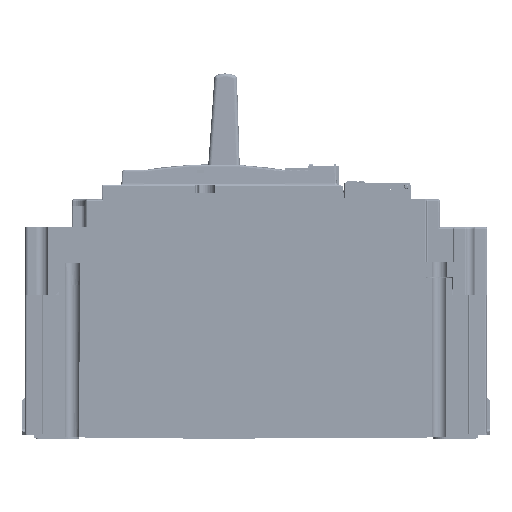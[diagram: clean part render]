
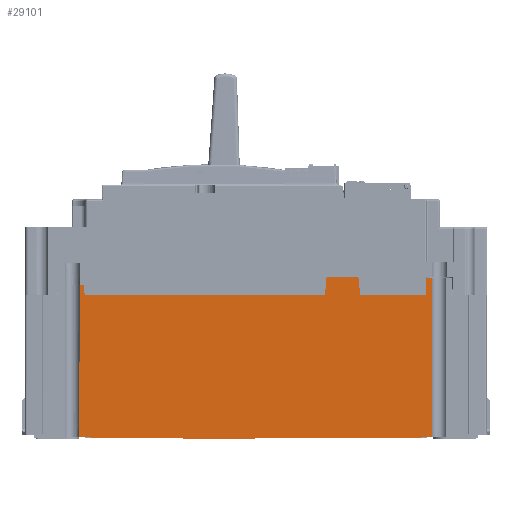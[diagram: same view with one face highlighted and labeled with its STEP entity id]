
A CAD part, left-side view. The second image highlights one B-rep face of the part: STEP entity #29101.
In plain terms, the highlighted planar face has unit normal (-1, 0, 0).
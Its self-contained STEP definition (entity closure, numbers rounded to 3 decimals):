
#29101=ADVANCED_FACE('',(#53751),#53752,.T.);
#53751=FACE_OUTER_BOUND('',#88213,.T.);
#53752=PLANE('',#88214);
#88213=EDGE_LOOP('',(#121504,#121505,#121506,#121507,#121508,#121509,#121510,#121511,#121512,#121513,#121514,#121515,#121516,#121517,#121518,#121519,#121520,#121521,#121522,#121523,#121524,#121525,#121526,#121527,#121528,#121529,#121530));
#88214=AXIS2_PLACEMENT_3D('',#121531,#121532,#121533);
#121504=ORIENTED_EDGE('',*,*,#172597,.F.);
#121505=ORIENTED_EDGE('',*,*,#172598,.T.);
#121506=ORIENTED_EDGE('',*,*,#172599,.F.);
#121507=ORIENTED_EDGE('',*,*,#172432,.F.);
#121508=ORIENTED_EDGE('',*,*,#172596,.T.);
#121509=ORIENTED_EDGE('',*,*,#172600,.F.);
#121510=ORIENTED_EDGE('',*,*,#172601,.F.);
#121511=ORIENTED_EDGE('',*,*,#172602,.F.);
#121512=ORIENTED_EDGE('',*,*,#172603,.F.);
#121513=ORIENTED_EDGE('',*,*,#172604,.T.);
#121514=ORIENTED_EDGE('',*,*,#172059,.T.);
#121515=ORIENTED_EDGE('',*,*,#172605,.T.);
#121516=ORIENTED_EDGE('',*,*,#172055,.T.);
#121517=ORIENTED_EDGE('',*,*,#172606,.T.);
#121518=ORIENTED_EDGE('',*,*,#172607,.T.);
#121519=ORIENTED_EDGE('',*,*,#172608,.T.);
#121520=ORIENTED_EDGE('',*,*,#172609,.F.);
#121521=ORIENTED_EDGE('',*,*,#172610,.F.);
#121522=ORIENTED_EDGE('',*,*,#172611,.F.);
#121523=ORIENTED_EDGE('',*,*,#172612,.F.);
#121524=ORIENTED_EDGE('',*,*,#172613,.F.);
#121525=ORIENTED_EDGE('',*,*,#172614,.T.);
#121526=ORIENTED_EDGE('',*,*,#172615,.F.);
#121527=ORIENTED_EDGE('',*,*,#172616,.T.);
#121528=ORIENTED_EDGE('',*,*,#172617,.T.);
#121529=ORIENTED_EDGE('',*,*,#172154,.T.);
#121530=ORIENTED_EDGE('',*,*,#172618,.T.);
#121531=CARTESIAN_POINT('',(-52.35,16.0,0.0));
#121532=DIRECTION('',(-1.0,0.0,0.0));
#121533=DIRECTION('',(0.0,0.0,1.0));
#172055=EDGE_CURVE('',#209463,#209461,#209464,.T.);
#172059=EDGE_CURVE('',#209471,#209469,#209472,.T.);
#172154=EDGE_CURVE('',#209649,#209647,#209650,.T.);
#172432=EDGE_CURVE('',#210146,#210149,#210150,.T.);
#172596=EDGE_CURVE('',#210146,#210439,#210441,.T.);
#172597=EDGE_CURVE('',#210442,#210443,#210444,.T.);
#172598=EDGE_CURVE('',#210442,#210445,#210446,.T.);
#172599=EDGE_CURVE('',#210149,#210445,#210447,.T.);
#172600=EDGE_CURVE('',#210448,#210439,#210449,.T.);
#172601=EDGE_CURVE('',#210450,#210448,#210451,.T.);
#172602=EDGE_CURVE('',#210452,#210450,#210453,.T.);
#172603=EDGE_CURVE('',#210454,#210452,#210455,.T.);
#172604=EDGE_CURVE('',#210454,#209471,#210456,.T.);
#172605=EDGE_CURVE('',#209469,#209463,#210457,.T.);
#172606=EDGE_CURVE('',#209461,#210458,#210459,.T.);
#172607=EDGE_CURVE('',#210458,#210460,#210461,.T.);
#172608=EDGE_CURVE('',#210460,#210462,#210463,.T.);
#172609=EDGE_CURVE('',#210464,#210462,#210465,.T.);
#172610=EDGE_CURVE('',#210466,#210464,#210467,.T.);
#172611=EDGE_CURVE('',#210468,#210466,#210469,.T.);
#172612=EDGE_CURVE('',#210470,#210468,#210471,.T.);
#172613=EDGE_CURVE('',#210472,#210470,#210473,.T.);
#172614=EDGE_CURVE('',#210472,#210474,#210475,.T.);
#172615=EDGE_CURVE('',#210476,#210474,#210477,.T.);
#172616=EDGE_CURVE('',#210476,#210478,#210479,.T.);
#172617=EDGE_CURVE('',#210478,#209649,#210480,.T.);
#172618=EDGE_CURVE('',#209647,#210443,#210481,.T.);
#209461=VERTEX_POINT('',#239878);
#209463=VERTEX_POINT('',#239880);
#209464=LINE('',#239881,#239882);
#209469=VERTEX_POINT('',#239888);
#209471=VERTEX_POINT('',#239890);
#209472=LINE('',#239891,#239892);
#209647=VERTEX_POINT('',#240207);
#209649=VERTEX_POINT('',#240210);
#209650=CIRCLE('',#240211,2.0);
#210146=VERTEX_POINT('',#241029);
#210149=VERTEX_POINT('',#241033);
#210150=LINE('',#241034,#241035);
#210439=VERTEX_POINT('',#241477);
#210441=LINE('',#241480,#241481);
#210442=VERTEX_POINT('',#241482);
#210443=VERTEX_POINT('',#241483);
#210444=LINE('',#241484,#241485);
#210445=VERTEX_POINT('',#241486);
#210446=LINE('',#241487,#241488);
#210447=LINE('',#241489,#241490);
#210448=VERTEX_POINT('',#241491);
#210449=LINE('',#241492,#241493);
#210450=VERTEX_POINT('',#241494);
#210451=LINE('',#241495,#241496);
#210452=VERTEX_POINT('',#241497);
#210453=LINE('',#241498,#241499);
#210454=VERTEX_POINT('',#241500);
#210455=LINE('',#241501,#241502);
#210456=LINE('',#241503,#241504);
#210457=LINE('',#241505,#241506);
#210458=VERTEX_POINT('',#241507);
#210459=LINE('',#241508,#241509);
#210460=VERTEX_POINT('',#241510);
#210461=LINE('',#241511,#241512);
#210462=VERTEX_POINT('',#241513);
#210463=LINE('',#241514,#241515);
#210464=VERTEX_POINT('',#241516);
#210465=LINE('',#241517,#241518);
#210466=VERTEX_POINT('',#241519);
#210467=CIRCLE('',#241520,0.5);
#210468=VERTEX_POINT('',#241521);
#210469=LINE('',#241522,#241523);
#210470=VERTEX_POINT('',#241524);
#210471=CIRCLE('',#241525,0.5);
#210472=VERTEX_POINT('',#241526);
#210473=LINE('',#241527,#241528);
#210474=VERTEX_POINT('',#241529);
#210475=LINE('',#241530,#241531);
#210476=VERTEX_POINT('',#241532);
#210477=LINE('',#241533,#241534);
#210478=VERTEX_POINT('',#241535);
#210479=LINE('',#241536,#241537);
#210480=LINE('',#241538,#241539);
#210481=LINE('',#241540,#241541);
#239878=CARTESIAN_POINT('',(-52.35,-120.503,50.65));
#239880=CARTESIAN_POINT('',(-52.35,-120.503,54.65));
#239881=CARTESIAN_POINT('',(-52.35,-120.503,54.65));
#239882=VECTOR('',#266489,4.0);
#239888=CARTESIAN_POINT('',(-52.35,-122.404,54.65));
#239890=CARTESIAN_POINT('',(-52.35,-122.404,0.5));
#239891=CARTESIAN_POINT('',(-52.35,-122.404,0.5));
#239892=VECTOR('',#266497,54.15);
#240207=CARTESIAN_POINT('',(-52.35,-2.457,26.));
#240210=CARTESIAN_POINT('',(-52.35,-2.596,25.998));
#240211=AXIS2_PLACEMENT_3D('',#266678,#266679,#266680);
#241029=CARTESIAN_POINT('',(-52.35,-37.8,0.0));
#241033=CARTESIAN_POINT('',(-52.35,-6.5,0.0));
#241034=CARTESIAN_POINT('',(-52.35,-37.8,0.0));
#241035=VECTOR('',#267100,31.3);
#241477=CARTESIAN_POINT('',(-52.35,-37.8,-0.05));
#241480=CARTESIAN_POINT('',(-52.35,-37.8,0.0));
#241481=VECTOR('',#267375,0.05);
#241482=CARTESIAN_POINT('',(-52.35,-6.3,0.5));
#241483=CARTESIAN_POINT('',(-52.35,-2.457,0.5));
#241484=CARTESIAN_POINT('',(-52.35,-6.3,0.5));
#241485=VECTOR('',#267376,3.843);
#241486=CARTESIAN_POINT('',(-52.35,-6.3,0.2));
#241487=CARTESIAN_POINT('',(-52.35,-6.3,0.5));
#241488=VECTOR('',#267377,0.3);
#241489=CARTESIAN_POINT('',(-52.35,-6.5,0.0));
#241490=VECTOR('',#267378,0.283);
#241491=CARTESIAN_POINT('',(-52.35,-62.2,-0.05));
#241492=CARTESIAN_POINT('',(-52.35,-62.2,-0.05));
#241493=VECTOR('',#267379,24.4);
#241494=CARTESIAN_POINT('',(-52.35,-62.2,0.0));
#241495=CARTESIAN_POINT('',(-52.35,-62.2,0.0));
#241496=VECTOR('',#267380,0.05);
#241497=CARTESIAN_POINT('',(-52.35,-118.7,0.0));
#241498=CARTESIAN_POINT('',(-52.35,-118.7,0.0));
#241499=VECTOR('',#267381,56.5);
#241500=CARTESIAN_POINT('',(-52.35,-118.7,0.5));
#241501=CARTESIAN_POINT('',(-52.35,-118.7,0.5));
#241502=VECTOR('',#267382,0.5);
#241503=CARTESIAN_POINT('',(-52.35,-118.7,0.5));
#241504=VECTOR('',#267383,3.704);
#241505=CARTESIAN_POINT('',(-52.35,-122.404,54.65));
#241506=VECTOR('',#267384,1.902);
#241507=CARTESIAN_POINT('',(-52.35,-120.38,50.65));
#241508=CARTESIAN_POINT('',(-52.35,-120.503,50.65));
#241509=VECTOR('',#267385,0.123);
#241510=CARTESIAN_POINT('',(-52.35,-120.349,48.85));
#241511=CARTESIAN_POINT('',(-52.35,-120.38,50.65));
#241512=VECTOR('',#267386,1.8);
#241513=CARTESIAN_POINT('',(-52.35,-97.985,48.85));
#241514=CARTESIAN_POINT('',(-52.35,-120.349,48.85));
#241515=VECTOR('',#267387,22.364);
#241516=CARTESIAN_POINT('',(-52.35,-97.5,54.394));
#241517=CARTESIAN_POINT('',(-52.35,-97.5,54.394));
#241518=VECTOR('',#267388,5.565);
#241519=CARTESIAN_POINT('',(-52.35,-97.002,54.85));
#241520=AXIS2_PLACEMENT_3D('',#267389,#267390,#267391);
#241521=CARTESIAN_POINT('',(-52.35,-86.998,54.85));
#241522=CARTESIAN_POINT('',(-52.35,-86.998,54.85));
#241523=VECTOR('',#267392,10.004);
#241524=CARTESIAN_POINT('',(-52.35,-86.5,54.394));
#241525=AXIS2_PLACEMENT_3D('',#267393,#267394,#267395);
#241526=CARTESIAN_POINT('',(-52.35,-86.015,48.85));
#241527=CARTESIAN_POINT('',(-52.35,-86.015,48.85));
#241528=VECTOR('',#267396,5.565);
#241529=CARTESIAN_POINT('',(-52.35,-4.216,48.85));
#241530=CARTESIAN_POINT('',(-52.35,-86.015,48.85));
#241531=VECTOR('',#267397,81.799);
#241532=CARTESIAN_POINT('',(-52.35,-4.16,52.05));
#241533=CARTESIAN_POINT('',(-52.35,-4.16,52.05));
#241534=VECTOR('',#267398,3.2);
#241535=CARTESIAN_POINT('',(-52.35,-2.596,52.05));
#241536=CARTESIAN_POINT('',(-52.35,-4.16,52.05));
#241537=VECTOR('',#267399,1.564);
#241538=CARTESIAN_POINT('',(-52.35,-2.596,52.05));
#241539=VECTOR('',#267400,26.052);
#241540=CARTESIAN_POINT('',(-52.35,-2.457,26.));
#241541=VECTOR('',#267401,25.5);
#266489=DIRECTION('',(0.0,0.,-1.0));
#266497=DIRECTION('',(0.0,0.0,1.0));
#266678=CARTESIAN_POINT('',(-52.35,-2.5,24.0));
#266679=DIRECTION('',(-1.0,0.0,0.0));
#266680=DIRECTION('',(0.0,-0.048,0.999));
#267100=DIRECTION('',(0.0,1.0,0.0));
#267375=DIRECTION('',(0.0,0.0,-1.0));
#267376=DIRECTION('',(0.0,1.0,0.0));
#267377=DIRECTION('',(0.0,0.0,-1.0));
#267378=DIRECTION('',(0.0,0.707,0.707));
#267379=DIRECTION('',(0.0,1.0,0.0));
#267380=DIRECTION('',(0.0,0.0,-1.0));
#267381=DIRECTION('',(0.0,1.0,0.0));
#267382=DIRECTION('',(0.0,0.0,-1.0));
#267383=DIRECTION('',(0.,-1.0,0.0));
#267384=DIRECTION('',(0.,1.0,0.0));
#267385=DIRECTION('',(0.,1.0,0.0));
#267386=DIRECTION('',(0.0,0.017,-1.));
#267387=DIRECTION('',(0.0,1.0,0.0));
#267388=DIRECTION('',(0.0,-0.087,-0.996));
#267389=CARTESIAN_POINT('',(-52.35,-97.002,54.35));
#267390=DIRECTION('',(1.0,0.0,-0.0));
#267391=DIRECTION('',(0.0,0.0,1.0));
#267392=DIRECTION('',(0.0,-1.0,0.0));
#267393=CARTESIAN_POINT('',(-52.35,-86.998,54.35));
#267394=DIRECTION('',(1.0,0.0,-0.0));
#267395=DIRECTION('',(0.0,0.996,0.087));
#267396=DIRECTION('',(0.0,-0.087,0.996));
#267397=DIRECTION('',(0.0,1.0,0.0));
#267398=DIRECTION('',(0.0,-0.017,-1.));
#267399=DIRECTION('',(0.0,1.0,0.0));
#267400=DIRECTION('',(0.0,0.0,-1.0));
#267401=DIRECTION('',(0.0,0.0,-1.0));
